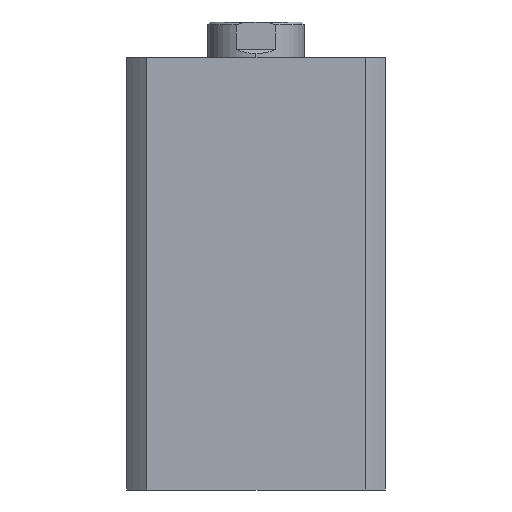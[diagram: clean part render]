
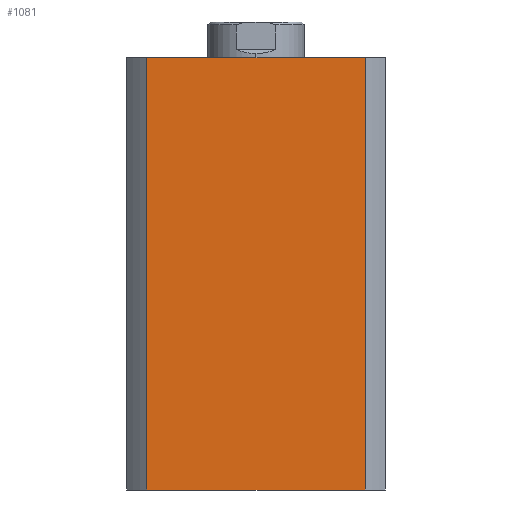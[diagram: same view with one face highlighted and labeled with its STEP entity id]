
A CAD part, left-side view. The second image highlights one B-rep face of the part: STEP entity #1081.
In plain terms, the highlighted planar face has unit normal (-1, 0, 0).
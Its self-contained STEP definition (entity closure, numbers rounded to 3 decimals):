
#882 = CARTESIAN_POINT ( 'NONE',  ( -47., 39.664, 157. ) ) ;
#883 = CARTESIAN_POINT ( 'NONE',  ( -47., -39.664, 157. ) ) ;
#893 = CARTESIAN_POINT ( 'NONE',  ( -47., 39.664, 0. ) ) ;
#930 = CARTESIAN_POINT ( 'NONE',  ( -47., -39.664, 0. ) ) ;
#1081 = ADVANCED_FACE ( 'NONE', ( #4746 ), #3710, .F. ) ;
#1601 = VERTEX_POINT ( 'NONE', #882 ) ;
#1602 = VERTEX_POINT ( 'NONE', #883 ) ;
#1612 = VERTEX_POINT ( 'NONE', #893 ) ;
#1859 = CARTESIAN_POINT ( 'NONE',  ( -47., 0., 157. ) ) ;
#1863 = DIRECTION ( 'NONE',  ( 0., -1., 0. ) ) ;
#2129 = ORIENTED_EDGE ( 'NONE', *, *, #4215, .T. ) ;
#2144 = ORIENTED_EDGE ( 'NONE', *, *, #4005, .F. ) ;
#2154 = ORIENTED_EDGE ( 'NONE', *, *, #4216, .T. ) ;
#2175 = ORIENTED_EDGE ( 'NONE', *, *, #4217, .F. ) ;
#2626 = VERTEX_POINT ( 'NONE', #930 ) ;
#3387 = LINE ( 'NONE', #1859, #3392 ) ;
#3392 = VECTOR ( 'NONE', #1863, 1000. ) ;
#3465 = LINE ( 'NONE', #4986, #3471 ) ;
#3467 = LINE ( 'NONE', #4984, #3469 ) ;
#3469 = VECTOR ( 'NONE', #4977, 1000. ) ;
#3470 = LINE ( 'NONE', #4992, #3473 ) ;
#3471 = VECTOR ( 'NONE', #4991, 1000. ) ;
#3473 = VECTOR ( 'NONE', #4994, 1000. ) ;
#3707 = DIRECTION ( 'NONE',  ( 0., 0., -1. ) ) ;
#3708 = DIRECTION ( 'NONE',  ( 1., 0., 0. ) ) ;
#3710 = PLANE ( 'NONE',  #4059 ) ;
#3715 = CARTESIAN_POINT ( 'NONE',  ( -47., 0., 157. ) ) ;
#4005 = EDGE_CURVE ( 'NONE', #1601, #1602, #3387, .T. ) ;
#4059 = AXIS2_PLACEMENT_3D ( 'NONE', #3715, #3708, #3707 ) ;
#4215 = EDGE_CURVE ( 'NONE', #1601, #1612, #3467, .T. ) ;
#4216 = EDGE_CURVE ( 'NONE', #1612, #2626, #3465, .T. ) ;
#4217 = EDGE_CURVE ( 'NONE', #1602, #2626, #3470, .T. ) ;
#4569 = EDGE_LOOP ( 'NONE', ( #2154, #2175, #2144, #2129 ) ) ;
#4746 = FACE_OUTER_BOUND ( 'NONE', #4569, .T. ) ;
#4977 = DIRECTION ( 'NONE',  ( 0., 0., -1. ) ) ;
#4984 = CARTESIAN_POINT ( 'NONE',  ( -47., 39.664, 157. ) ) ;
#4986 = CARTESIAN_POINT ( 'NONE',  ( -47., 0., 0. ) ) ;
#4991 = DIRECTION ( 'NONE',  ( 0., -1., 0. ) ) ;
#4992 = CARTESIAN_POINT ( 'NONE',  ( -47., -39.664, 157. ) ) ;
#4994 = DIRECTION ( 'NONE',  ( 0., 0., -1. ) ) ;
